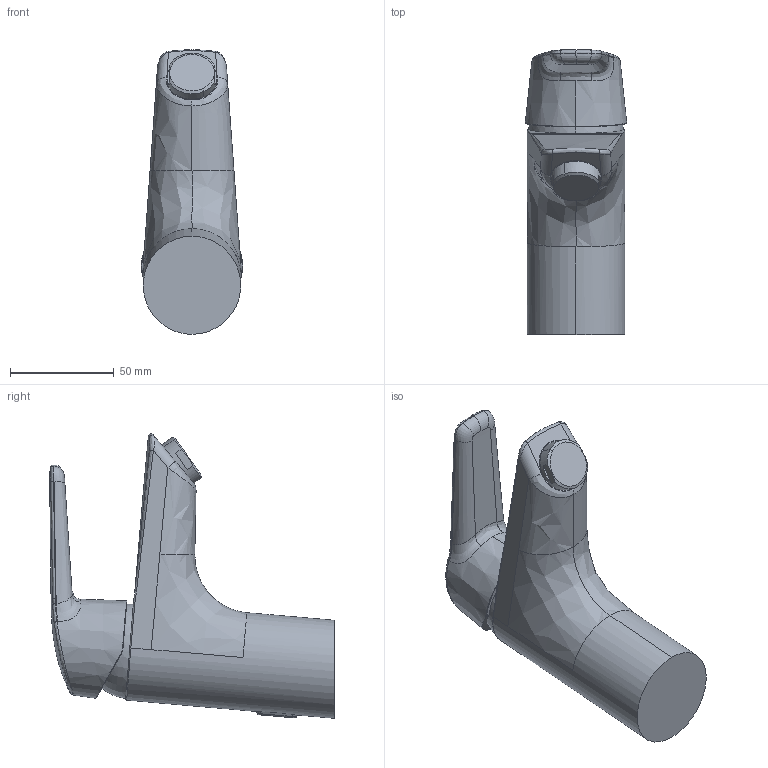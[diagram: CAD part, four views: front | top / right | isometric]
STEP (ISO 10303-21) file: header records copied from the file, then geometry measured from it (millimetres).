
FILE_DESCRIPTION (( 'STEP AP203' ), '1' );
FILE_NAME ('1510FL-105(2019).STEP', '2020-04-08T04:09:19', ( '' ), ( '' ), 'SwSTEP 2.0', 'SolidWorks 2016', '' );
FILE_SCHEMA (( 'CONFIG_CONTROL_DESIGN' ));
Length unit declared in the file: millimetre
Products named in the file (1): 1510FL-105(2019)
Bounding box: 48.79 x 137.09 x 137.08 mm (x, y, z)
Volume: 320946.4 mm3; surface area: 36227.9 mm2
Topology: 1 solids, 1 shells, 94 faces, 229 edges, 139 vertices
Faces by surface type: bspline 59, cylinder 12, plane 12, cone 9, torus 2
Entity records: 13180 total; most frequent: CARTESIAN_POINT 11419, ORIENTED_EDGE 458, EDGE_CURVE 229, DIRECTION 173, B_SPLINE_CURVE_WITH_KNOTS 156, VERTEX_POINT 139, EDGE_LOOP 96, FACE_OUTER_BOUND 94
